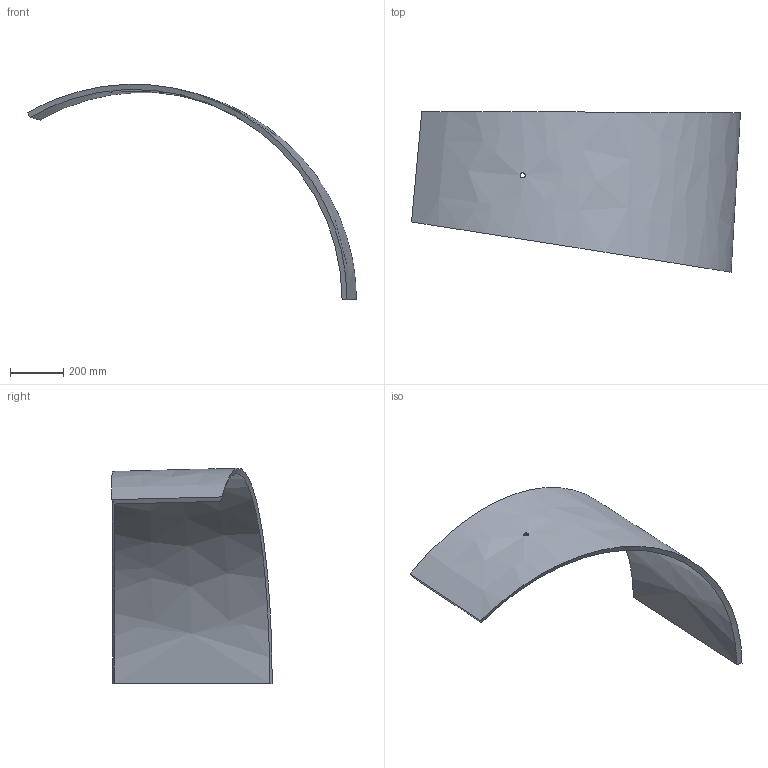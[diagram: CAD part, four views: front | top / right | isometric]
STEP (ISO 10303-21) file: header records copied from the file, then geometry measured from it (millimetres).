
FILE_DESCRIPTION (( 'STEP AP214' ), '1' );
FILE_NAME ('P4.2Mirror.STEP', '2025-01-09T19:43:27', ( '' ), ( '' ), 'SwSTEP 2.0', 'SolidWorks 2024', '' );
FILE_SCHEMA (( 'AUTOMOTIVE_DESIGN' ));
Length unit declared in the file: inch
Products named in the file (1): P4.2Mirror
Bounding box: 1229.87 x 599.37 x 805.1 mm (x, y, z)
Volume: 16045045.5 mm3; surface area: 1802069.8 mm2
Topology: 1 solids, 1 shells, 8 faces, 18 edges, 12 vertices
Faces by surface type: bspline 7, cylinder 1
Full cylindrical faces by diameter (mm): 19.431 x1
Entity records: 3083 total; most frequent: CARTESIAN_POINT 2935, ORIENTED_EDGE 30, EDGE_CURVE 15, B_SPLINE_CURVE_WITH_KNOTS 15, EDGE_LOOP 12, VERTEX_POINT 11, FACE_OUTER_BOUND 10, ADVANCED_FACE 8
